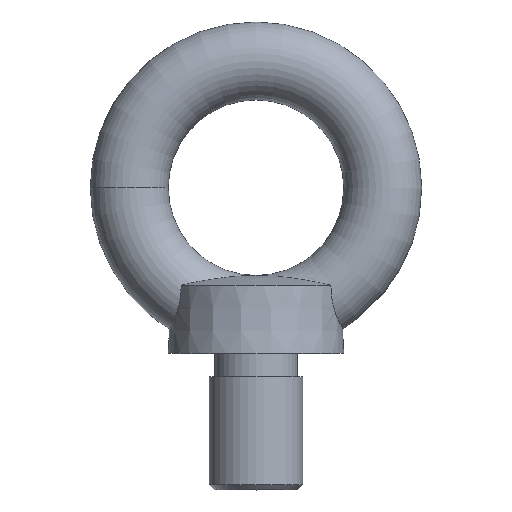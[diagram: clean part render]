
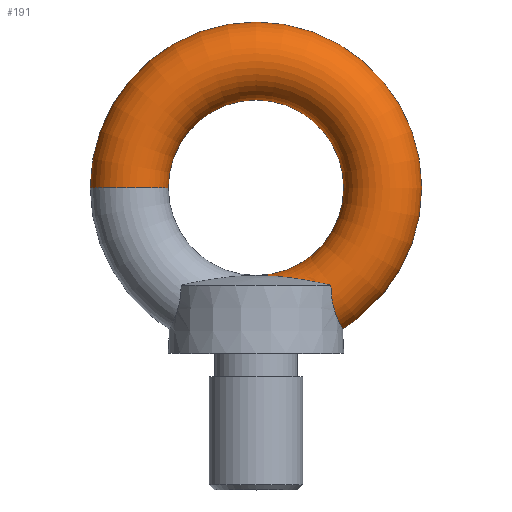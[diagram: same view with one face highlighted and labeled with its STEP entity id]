
A CAD part, top view. The second image highlights one B-rep face of the part: STEP entity #191.
In plain terms, the highlighted toroidal (fillet/blend) face has major radius 65 mm and minor radius 20 mm.
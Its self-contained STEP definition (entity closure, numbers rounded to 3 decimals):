
#15=TOROIDAL_SURFACE('',#235,65.,20.);
#20=B_SPLINE_CURVE_WITH_KNOTS('',3,(#335,#336,#337,#338,#339,#340,#341,
#342,#343,#344,#345,#346,#347,#348),.UNSPECIFIED.,.F.,.F.,(4,2,2,2,2,2,
4),(0.,1.337,2.005,2.674,3.542,
3.977,4.163),.UNSPECIFIED.);
#22=B_SPLINE_CURVE_WITH_KNOTS('',3,(#366,#367,#368,#369,#370,#371,#372,
#373,#374,#375,#376,#377,#378,#379),.UNSPECIFIED.,.F.,.F.,(4,2,2,2,2,2,
4),(11.164,11.35,11.785,12.653,
13.322,13.99,15.327),.UNSPECIFIED.);
#24=B_SPLINE_CURVE_WITH_KNOTS('',3,(#419,#420,#421,#422,#423,#424,#425,
#426,#427,#428,#429,#430),.UNSPECIFIED.,.F.,.F.,(4,2,2,2,2,4),(-3.528,
-3.171,-2.398,-1.655,-0.893,
0.),.UNSPECIFIED.);
#25=B_SPLINE_CURVE_WITH_KNOTS('',3,(#432,#433,#434,#435,#436,#437,#438,
#439,#440,#441,#442,#443),.UNSPECIFIED.,.F.,.F.,(4,2,2,2,2,4),(-6.891,
-6.225,-5.51,-4.741,-3.956,
-3.528),.UNSPECIFIED.);
#42=FACE_OUTER_BOUND('',#55,.T.);
#55=EDGE_LOOP('',(#167,#168,#169,#170,#171,#172,#173));
#78=CIRCLE('',#236,20.);
#79=CIRCLE('',#237,45.);
#87=VERTEX_POINT('',#318);
#88=VERTEX_POINT('',#333);
#90=VERTEX_POINT('',#365);
#97=VERTEX_POINT('',#418);
#98=VERTEX_POINT('',#445);
#108=EDGE_CURVE('',#87,#88,#20,.T.);
#110=EDGE_CURVE('',#90,#87,#22,.T.);
#120=EDGE_CURVE('',#97,#90,#24,.T.);
#122=EDGE_CURVE('',#88,#97,#25,.T.);
#123=EDGE_CURVE('',#98,#98,#78,.T.);
#124=EDGE_CURVE('',#98,#87,#79,.T.);
#167=ORIENTED_EDGE('',*,*,#123,.F.);
#168=ORIENTED_EDGE('',*,*,#124,.T.);
#169=ORIENTED_EDGE('',*,*,#108,.T.);
#170=ORIENTED_EDGE('',*,*,#122,.T.);
#171=ORIENTED_EDGE('',*,*,#120,.T.);
#172=ORIENTED_EDGE('',*,*,#110,.T.);
#173=ORIENTED_EDGE('',*,*,#124,.F.);
#191=ADVANCED_FACE('',(#42),#15,.T.);
#235=AXIS2_PLACEMENT_3D('',#444,#290,#291);
#236=AXIS2_PLACEMENT_3D('',#446,#292,#293);
#237=AXIS2_PLACEMENT_3D('',#447,#294,#295);
#290=DIRECTION('center_axis',(0.,0.,1.));
#291=DIRECTION('ref_axis',(1.,0.,0.));
#292=DIRECTION('center_axis',(0.,-1.,0.));
#293=DIRECTION('ref_axis',(-1.,0.,0.));
#294=DIRECTION('center_axis',(0.,0.,-1.));
#295=DIRECTION('ref_axis',(1.,0.,0.));
#318=CARTESIAN_POINT('',(0.,-45.,0.));
#333=CARTESIAN_POINT('',(38.399,-50.,19.904));
#335=CARTESIAN_POINT('Ctrl Pts',(0.,-45.,0.));
#336=CARTESIAN_POINT('Ctrl Pts',(3.507,-45.,2.75));
#337=CARTESIAN_POINT('Ctrl Pts',(7.357,-45.168,5.779));
#338=CARTESIAN_POINT('Ctrl Pts',(13.336,-45.716,9.953));
#339=CARTESIAN_POINT('Ctrl Pts',(15.365,-45.946,11.281));
#340=CARTESIAN_POINT('Ctrl Pts',(19.43,-46.482,13.699));
#341=CARTESIAN_POINT('Ctrl Pts',(21.466,-46.787,14.788));
#342=CARTESIAN_POINT('Ctrl Pts',(26.059,-47.542,16.93));
#343=CARTESIAN_POINT('Ctrl Pts',(28.986,-48.074,18.052));
#344=CARTESIAN_POINT('Ctrl Pts',(33.48,-48.964,19.206));
#345=CARTESIAN_POINT('Ctrl Pts',(34.996,-49.276,19.505));
#346=CARTESIAN_POINT('Ctrl Pts',(37.131,-49.727,19.789));
#347=CARTESIAN_POINT('Ctrl Pts',(37.769,-49.864,19.856));
#348=CARTESIAN_POINT('Ctrl Pts',(38.399,-50.,19.904));
#365=CARTESIAN_POINT('',(38.399,-50.,-19.904));
#366=CARTESIAN_POINT('Ctrl Pts',(38.399,-50.,-19.904));
#367=CARTESIAN_POINT('Ctrl Pts',(37.769,-49.864,-19.856));
#368=CARTESIAN_POINT('Ctrl Pts',(37.131,-49.727,-19.789));
#369=CARTESIAN_POINT('Ctrl Pts',(34.996,-49.276,-19.505));
#370=CARTESIAN_POINT('Ctrl Pts',(33.48,-48.964,-19.206));
#371=CARTESIAN_POINT('Ctrl Pts',(28.986,-48.074,-18.052));
#372=CARTESIAN_POINT('Ctrl Pts',(26.059,-47.542,-16.93));
#373=CARTESIAN_POINT('Ctrl Pts',(21.466,-46.787,-14.788));
#374=CARTESIAN_POINT('Ctrl Pts',(19.43,-46.482,-13.699));
#375=CARTESIAN_POINT('Ctrl Pts',(15.365,-45.946,-11.281));
#376=CARTESIAN_POINT('Ctrl Pts',(13.336,-45.716,-9.953));
#377=CARTESIAN_POINT('Ctrl Pts',(7.357,-45.168,-5.779));
#378=CARTESIAN_POINT('Ctrl Pts',(3.507,-45.,-2.75));
#379=CARTESIAN_POINT('Ctrl Pts',(0.,-45.,0.));
#418=CARTESIAN_POINT('',(44.375,-72.497,0.));
#419=CARTESIAN_POINT('Ctrl Pts',(44.375,-72.497,0.));
#420=CARTESIAN_POINT('Ctrl Pts',(44.375,-72.497,-1.179));
#421=CARTESIAN_POINT('Ctrl Pts',(44.324,-72.406,-2.359));
#422=CARTESIAN_POINT('Ctrl Pts',(44.001,-71.83,-6.045));
#423=CARTESIAN_POINT('Ctrl Pts',(43.545,-71.018,-8.453));
#424=CARTESIAN_POINT('Ctrl Pts',(42.373,-68.618,-12.697));
#425=CARTESIAN_POINT('Ctrl Pts',(41.681,-67.084,-14.509));
#426=CARTESIAN_POINT('Ctrl Pts',(40.329,-63.311,-17.461));
#427=CARTESIAN_POINT('Ctrl Pts',(39.705,-61.131,-18.528));
#428=CARTESIAN_POINT('Ctrl Pts',(38.712,-55.915,-19.964));
#429=CARTESIAN_POINT('Ctrl Pts',(38.445,-52.968,-20.138));
#430=CARTESIAN_POINT('Ctrl Pts',(38.399,-50.,-19.904));
#432=CARTESIAN_POINT('Ctrl Pts',(38.399,-50.,19.904));
#433=CARTESIAN_POINT('Ctrl Pts',(38.439,-52.565,20.106));
#434=CARTESIAN_POINT('Ctrl Pts',(38.642,-55.126,20.004));
#435=CARTESIAN_POINT('Ctrl Pts',(39.485,-60.268,18.888));
#436=CARTESIAN_POINT('Ctrl Pts',(40.097,-62.515,17.874));
#437=CARTESIAN_POINT('Ctrl Pts',(41.403,-66.41,15.181));
#438=CARTESIAN_POINT('Ctrl Pts',(42.132,-68.089,13.393));
#439=CARTESIAN_POINT('Ctrl Pts',(43.387,-70.72,9.157));
#440=CARTESIAN_POINT('Ctrl Pts',(43.89,-71.629,6.747));
#441=CARTESIAN_POINT('Ctrl Pts',(44.301,-72.368,2.819));
#442=CARTESIAN_POINT('Ctrl Pts',(44.375,-72.497,1.41));
#443=CARTESIAN_POINT('Ctrl Pts',(44.375,-72.497,0.));
#444=CARTESIAN_POINT('Origin',(0.,0.,0.));
#445=CARTESIAN_POINT('',(-45.,0.,0.));
#446=CARTESIAN_POINT('Origin',(-65.,0.,0.));
#447=CARTESIAN_POINT('Origin',(0.,0.,0.));
